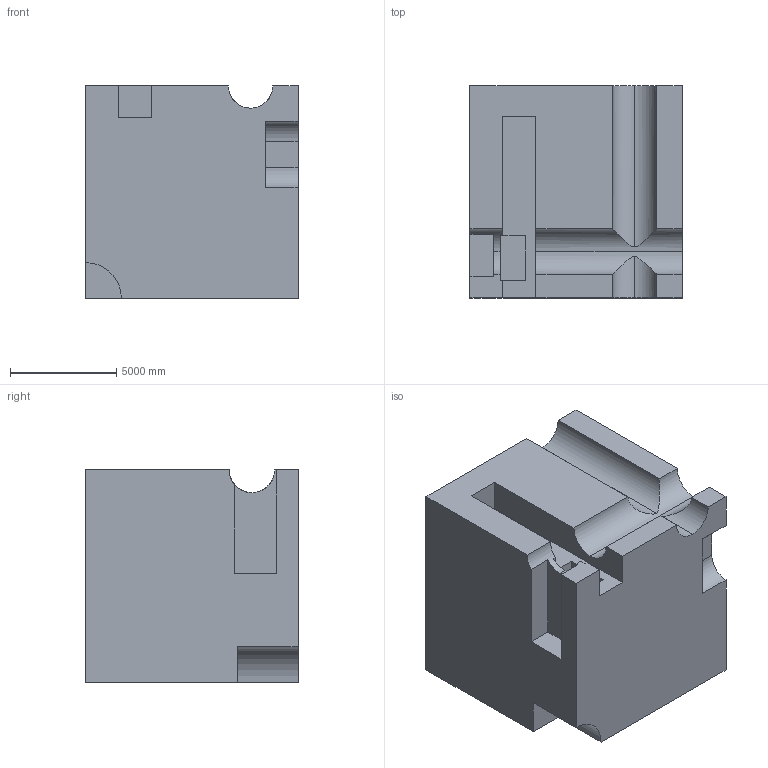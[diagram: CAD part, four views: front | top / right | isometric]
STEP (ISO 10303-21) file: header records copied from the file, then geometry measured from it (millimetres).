
FILE_DESCRIPTION (( 'STEP AP203' ), '1' );
FILE_NAME ('1717.STEP', '2022-08-19T12:01:46', ( 'user' ), ( '' ), 'SwSTEP 2.0', 'SolidWorks 2021', '' );
FILE_SCHEMA (( 'CONFIG_CONTROL_DESIGN' ));
Length unit declared in the file: centimetre
Products named in the file (1): 1717
Bounding box: 10000 x 10000 x 10000 mm (x, y, z)
Volume: 926075661946.1 mm3; surface area: 646581761.4 mm2
Topology: 1 solids, 1 shells, 41 faces, 117 edges, 78 vertices
Faces by surface type: plane 30, cylinder 11
Entity records: 1792 total; most frequent: CARTESIAN_POINT 629, ORIENTED_EDGE 234, DIRECTION 217, EDGE_CURVE 117, LINE 93, VECTOR 93, VERTEX_POINT 78, AXIS2_PLACEMENT_3D 62
